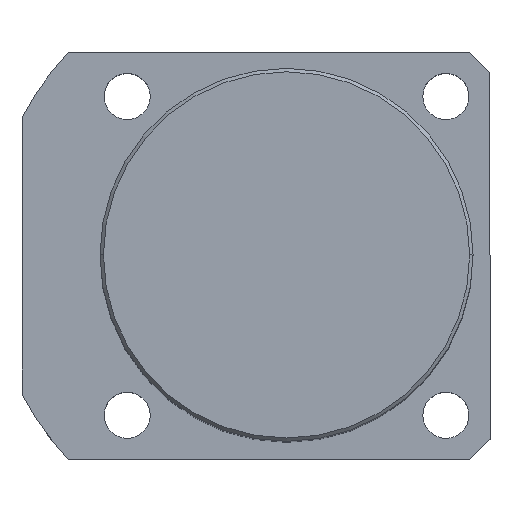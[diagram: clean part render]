
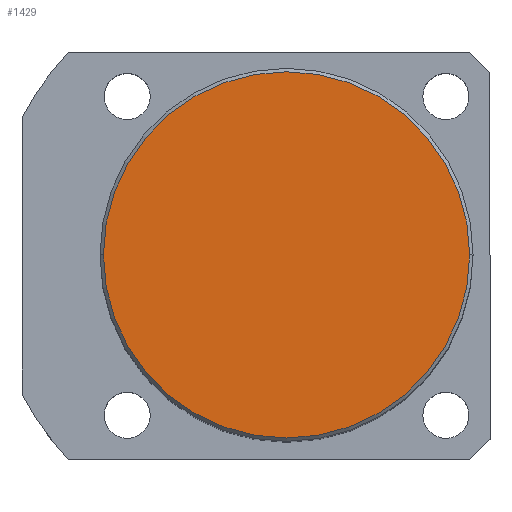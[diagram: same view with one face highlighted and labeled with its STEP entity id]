
A CAD part, top view. The second image highlights one B-rep face of the part: STEP entity #1429.
In plain terms, the highlighted planar face has unit normal (0, 0, 1).
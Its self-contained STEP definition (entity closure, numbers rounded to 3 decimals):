
#84 = EDGE_LOOP ( 'NONE', ( #1775, #1461 ) ) ;
#108 = VERTEX_POINT ( 'NONE', #747 ) ;
#152 = CARTESIAN_POINT ( 'NONE',  ( 27., 0., 95. ) ) ;
#402 = DIRECTION ( 'NONE',  ( 1., 0., 0. ) ) ;
#622 = AXIS2_PLACEMENT_3D ( 'NONE', #1184, #1023, #1610 ) ;
#747 = CARTESIAN_POINT ( 'NONE',  ( -27., 0., 95. ) ) ;
#838 = CIRCLE ( 'NONE', #1690, 27. ) ;
#905 = EDGE_CURVE ( 'NONE', #108, #1099, #838, .T. ) ;
#991 = FACE_OUTER_BOUND ( 'NONE', #84, .T. ) ;
#1023 = DIRECTION ( 'NONE',  ( 0., 0., 1. ) ) ;
#1099 = VERTEX_POINT ( 'NONE', #152 ) ;
#1184 = CARTESIAN_POINT ( 'NONE',  ( 0., 0., 95. ) ) ;
#1188 = EDGE_CURVE ( 'NONE', #1099, #108, #1907, .T. ) ;
#1238 = CARTESIAN_POINT ( 'NONE',  ( 0., 0., 95. ) ) ;
#1429 = ADVANCED_FACE ( 'NONE', ( #991 ), #1936, .T. ) ;
#1449 = CARTESIAN_POINT ( 'NONE',  ( 0., 0., 95. ) ) ;
#1461 = ORIENTED_EDGE ( 'NONE', *, *, #1188, .T. ) ;
#1566 = AXIS2_PLACEMENT_3D ( 'NONE', #1238, #1858, #1722 ) ;
#1610 = DIRECTION ( 'NONE',  ( 1., 0., 0. ) ) ;
#1690 = AXIS2_PLACEMENT_3D ( 'NONE', #1449, #1771, #402 ) ;
#1722 = DIRECTION ( 'NONE',  ( 1., 0., 0. ) ) ;
#1771 = DIRECTION ( 'NONE',  ( 0., 0., 1. ) ) ;
#1775 = ORIENTED_EDGE ( 'NONE', *, *, #905, .T. ) ;
#1858 = DIRECTION ( 'NONE',  ( 0., 0., 1. ) ) ;
#1907 = CIRCLE ( 'NONE', #1566, 27. ) ;
#1936 = PLANE ( 'NONE',  #622 ) ;
